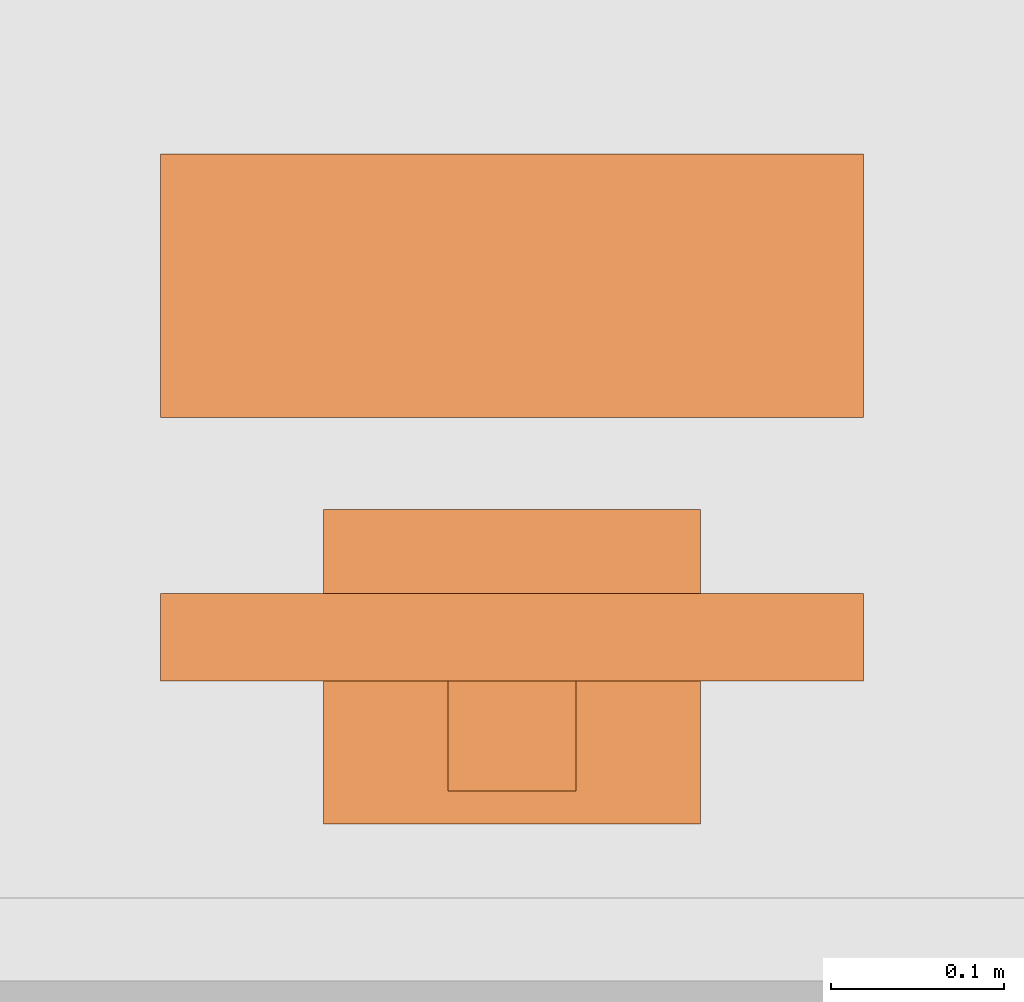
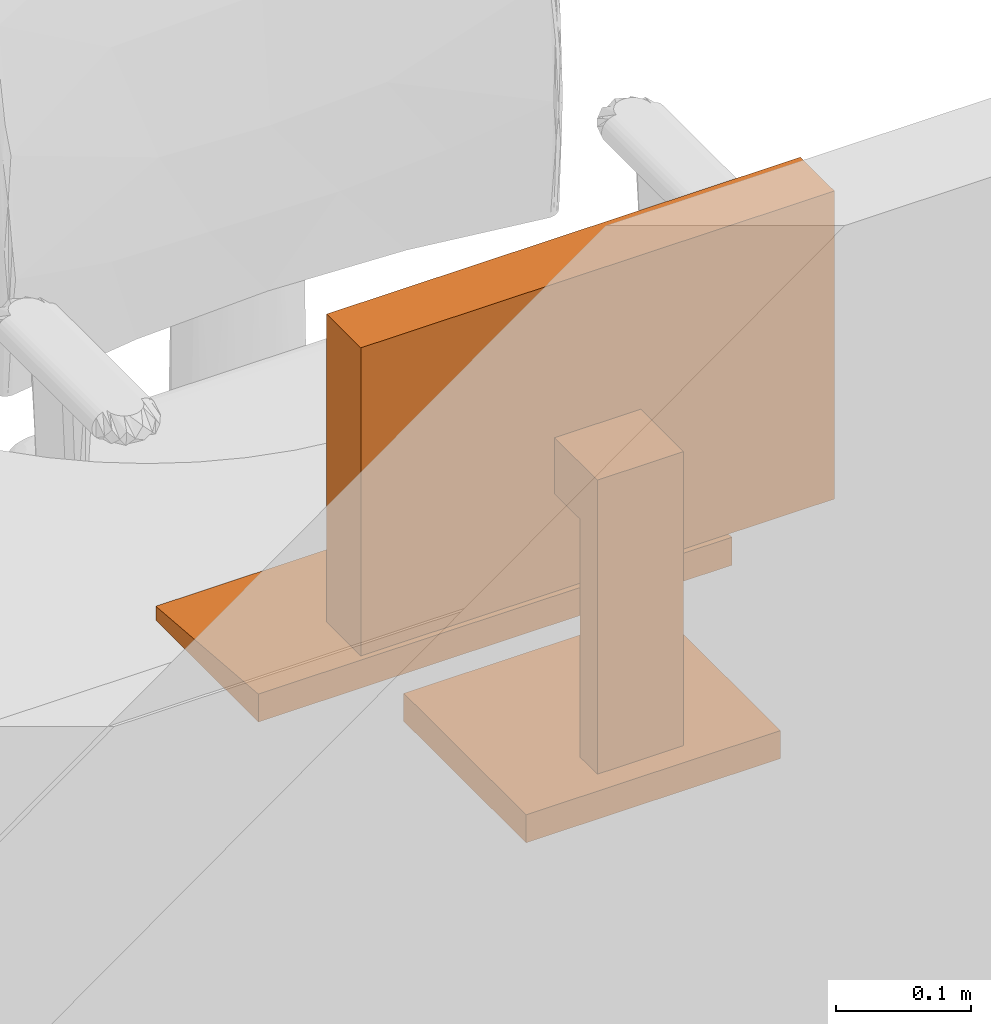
# One storey, part 87 of 142: 1 proxy.
"""IFC2X3 building model written with IfcOpenShell, lengths in feet."""

import ifcopenshell
import ifcopenshell.guid

model = None  # the IFC model being written
_history = None  # IfcOwnerHistory: only IFC2X3 demands one
_inside = {}  # id of a spatial element -> (the spatial element, [elements in it])
_under = {}  # id of a project, library or spatial element -> (it, [spatial elements below it])
_declared = {}  # id of a project -> (the project, [libraries it declares])
_typed = {}  # id of a type object -> (the type object, [elements of that type])
_made_of = {}  # id of a material, layer set ... -> (it, [elements and type objects made of it])


def new_model(schema):
    """Start an empty IFC model of exactly this schema.

    Asked for "IFC4X3", IfcOpenShell would pick the latest addendum, in which some entities
    have other attributes; the version numbers below select the first issue.
    IFC2X3 requires an IfcOwnerHistory on every rooted entity: one is made here for all.
    """
    global model, _history
    if schema == "IFC4X3":
        model = ifcopenshell.file(schema_version=(4, 3, 0, 0))
    else:
        model = ifcopenshell.file(schema=schema)
    _inside.clear()
    _under.clear()
    _declared.clear()
    _typed.clear()
    _made_of.clear()
    _history = None
    if model.schema == "IFC2X3":
        org = make("IfcOrganization", Name="unknown")
        user = make(
            "IfcPersonAndOrganization",
            ThePerson=make("IfcPerson", FamilyName="unknown"),
            TheOrganization=org,
        )
        app = make(
            "IfcApplication",
            ApplicationDeveloper=org,
            Version="unknown",
            ApplicationFullName="unknown",
            ApplicationIdentifier="unknown",
        )
        _history = make(
            "IfcOwnerHistory",
            OwningUser=user,
            OwningApplication=app,
            ChangeAction="ADDED",
            CreationDate=0,
        )
    return model


def make(cls, **values):
    """One entity of the class cls with the attributes given. An attribute that is None is left unset."""
    return model.create_entity(
        cls, **{name: value for name, value in values.items() if value is not None}
    )


def entity(cls, *values):
    """Any entity or typed value of the class cls, its attributes in the order of the schema. None: left unset."""
    e = model.create_entity(cls)
    for i, value in enumerate(values):
        if value is not None:
            e[i] = value
    return e


def rooted(cls, **values):
    """An entity with a GlobalId (a new one), such as an element, a storey or a relation."""
    return make(cls, GlobalId=ifcopenshell.guid.new(), OwnerHistory=_history, **values)


def si_unit(unit_type, name, prefix=None):
    """IfcSIUnit, for example si_unit("LENGTHUNIT", "METRE", prefix="MILLI")."""
    return make("IfcSIUnit", UnitType=unit_type, Prefix=prefix, Name=name)


def converted_unit(unit_type, name, factor, base, dimensions=None, offset=None):
    """IfcConversionBasedUnit, such as the inch: factor (a typed value) times the base unit."""
    return make(
        "IfcConversionBasedUnit"
        if offset is None
        else "IfcConversionBasedUnitWithOffset",
        ConversionOffset=offset,
        Dimensions=None
        if dimensions is None
        else entity("IfcDimensionalExponents", *dimensions),
        UnitType=unit_type,
        Name=name,
        ConversionFactor=make(
            "IfcMeasureWithUnit", ValueComponent=factor, UnitComponent=base
        ),
    )


def derived_unit(unit_type, elements):
    """IfcDerivedUnit: a product of units, each with its exponent."""
    return make(
        "IfcDerivedUnit",
        Elements=[
            make("IfcDerivedUnitElement", Unit=unit, Exponent=power)
            for unit, power in elements
        ],
        UnitType=unit_type,
    )


def assignment(units):
    """IfcUnitAssignment: the units of a project."""
    return None if units is None else make("IfcUnitAssignment", Units=units)


def point(xyz):
    """IfcCartesianPoint."""
    return None if xyz is None else make("IfcCartesianPoint", Coordinates=xyz)


def direction(xyz):
    """IfcDirection."""
    return None if xyz is None else make("IfcDirection", DirectionRatios=xyz)


def frame(location, z_axis=None, x_axis=None):
    """IfcAxis2Placement3D, a coordinate frame: its origin and axes. An axis left out is left unset."""
    return make(
        "IfcAxis2Placement3D",
        Location=point(location),
        Axis=direction(z_axis),
        RefDirection=direction(x_axis),
    )


def origin():
    """The frame at (0, 0, 0) with its axes left unset."""
    return frame((0.0, 0.0, 0.0))


def place(relative_to, where):
    """IfcLocalPlacement: puts the frame where relative to a parent placement (None: the world)."""
    return make(
        "IfcLocalPlacement", PlacementRelTo=relative_to, RelativePlacement=where
    )


def context(
    kind, dimensions, precision=None, world=None, true_north=None, identifier=None
):
    """IfcGeometricRepresentationContext, for example the 3D "Model" context."""
    return make(
        "IfcGeometricRepresentationContext",
        ContextIdentifier=identifier,
        ContextType=kind,
        CoordinateSpaceDimension=dimensions,
        Precision=precision,
        WorldCoordinateSystem=world,
        TrueNorth=true_north,
    )


def subcontext(parent, identifier, kind, view, scale=None):
    """IfcGeometricRepresentationSubContext, for example "Body" below "Model"."""
    return make(
        "IfcGeometricRepresentationSubContext",
        ContextIdentifier=identifier,
        ContextType=kind,
        ParentContext=parent,
        TargetScale=scale,
        TargetView=view,
    )


def project(units=None, contexts=None):
    """IfcProject with its units and contexts."""
    return rooted(
        "IfcProject",
        Name="project",
        RepresentationContexts=contexts,
        UnitsInContext=assignment(units),
    )


def spatial(cls, under=None, at=None, **own):
    """A site, building, storey or space (cls), placed at a placement, below another one or the project."""
    s = rooted(cls, ObjectPlacement=at, **own)
    if under is not None:
        _under.setdefault(under.id(), (under, []))[1].append(s)
    return s


def faces_of(points, faces, orient=None, outer=None):
    """IfcFace entities. A face is a list of loops; a loop is a list of indices into points, from 0.

    orient and outer hold one flag for each loop. By default every Orientation is true, the
    first loop of a face is its IfcFaceOuterBound and the others are IfcFaceBound.
    """
    made = []
    for i, loops in enumerate(faces):
        bounds = []
        for j, loop in enumerate(loops):
            is_outer = j == 0 if outer is None else outer[i][j]
            bounds.append(
                make(
                    "IfcFaceOuterBound" if is_outer else "IfcFaceBound",
                    Bound=make("IfcPolyLoop", Polygon=[points[k] for k in loop]),
                    Orientation=True if orient is None else orient[i][j],
                )
            )
        made.append(make("IfcFace", Bounds=bounds))
    return made


def faceted_brep(points, faces, orient=None, outer=None, voids=None):
    """IfcFacetedBrep: a solid bounded by flat faces; with voids (closed shells), ...WithVoids."""
    shared = [point(p) for p in points]
    hull = make("IfcClosedShell", CfsFaces=faces_of(shared, faces, orient, outer))
    if voids is None:
        return make("IfcFacetedBrep", Outer=hull)
    return make(
        "IfcFacetedBrepWithVoids",
        Outer=hull,
        Voids=[
            make(cls, CfsFaces=faces_of(shared, fs, o, b)) for cls, fs, o, b in voids
        ],
    )


def shape(context_of_items, identifier, shape_type, items):
    """IfcShapeRepresentation: the items that make up one representation, for example the "Body"."""
    return make(
        "IfcShapeRepresentation",
        ContextOfItems=context_of_items,
        RepresentationIdentifier=identifier,
        RepresentationType=shape_type,
        Items=items,
    )


def source(mapping_origin, context_of_items, identifier, shape_type, items):
    """IfcRepresentationMap: a shape defined once, which mapped items show again and again."""
    return make(
        "IfcRepresentationMap",
        MappingOrigin=mapping_origin,
        MappedRepresentation=shape(context_of_items, identifier, shape_type, items),
    )


def transform(
    local_origin,
    x_axis=None,
    y_axis=None,
    z_axis=None,
    scale=None,
    scale2=None,
    scale3=None,
    uniform=True,
):
    """IfcCartesianTransformationOperator3D, or its non-uniform kind. x_axis, y_axis, z_axis: its Axis1, 2, 3."""
    if uniform:
        return make(
            "IfcCartesianTransformationOperator3D",
            Axis1=direction(x_axis),
            Axis2=direction(y_axis),
            LocalOrigin=point(local_origin),
            Scale=scale,
            Axis3=direction(z_axis),
        )
    return make(
        "IfcCartesianTransformationOperator3DnonUniform",
        Axis1=direction(x_axis),
        Axis2=direction(y_axis),
        LocalOrigin=point(local_origin),
        Scale=scale,
        Axis3=direction(z_axis),
        Scale2=scale2,
        Scale3=scale3,
    )


def mapped(mapping_source, mapping_target):
    """IfcMappedItem: shows the shape of a source again, moved by a transform."""
    return make(
        "IfcMappedItem", MappingSource=mapping_source, MappingTarget=mapping_target
    )


def made_of(thing, what):
    """Note that an element or type object is made of a material, layer set ...; save() writes the relation."""
    if what is not None:
        _made_of.setdefault(what.id(), (what, []))[1].append(thing)
    return thing


def type_object(cls, material=None, **own):
    """A type object (cls), such as IfcWallType, which elements share."""
    return made_of(rooted(cls, **own), material)


def type_shapes(of_type, sources):
    """Give a type object the sources (RepresentationMaps) that its elements show as mapped items."""
    of_type.RepresentationMaps = sources


def element(
    cls,
    number,
    at=None,
    inside=None,
    cuts=None,
    type_object=None,
    material=None,
    context=None,
    identifier="Body",
    shape_type=None,
    held_by="IfcProductDefinitionShape",
    body=None,
    shapes=None,
    **own,
):
    """One element of the class cls, such as IfcWall. Its Tag is "e" and its number.

    at: its placement. inside: the storey or other place that contains it. cuts: it is an
    opening in that element (IfcRelVoidsElement). A single representation is given by context,
    identifier, shape_type and body (its items); several are given by shapes. held_by: the class
    of the entity that holds the representations. save() writes the other relations.
    """
    e = rooted(cls, Tag="e%d" % number, ObjectPlacement=at, **own)
    if body is not None:
        shapes = [shape(context, identifier, shape_type, body)]
    if shapes is not None:
        e.Representation = make(held_by, Representations=shapes)
    if inside is not None:
        _inside.setdefault(inside.id(), (inside, []))[1].append(e)
    if cuts is not None:
        rooted(
            "IfcRelVoidsElement", RelatingBuildingElement=cuts, RelatedOpeningElement=e
        )
    if type_object is not None:
        _typed.setdefault(type_object.id(), (type_object, []))[1].append(e)
    return made_of(e, material)


def aggregate(whole, parts):
    """IfcRelAggregates: a whole, such as a stair, and the parts it consists of."""
    return rooted("IfcRelAggregates", RelatingObject=whole, RelatedObjects=parts)


def save(model, path):
    """Write the relations noted so far, then the file.

    IfcRelAggregates (storeys below a building ...), IfcRelContainedInSpatialStructure (elements
    in a storey), IfcRelDefinesByType, IfcRelAssociatesMaterial and IfcRelDeclares: one each for
    every whole, place, type object, material and project.
    """
    for whole, parts in _under.values():
        aggregate(whole, parts)
    for where, things in _inside.values():
        rooted(
            "IfcRelContainedInSpatialStructure",
            RelatedElements=things,
            RelatingStructure=where,
        )
    for kind, things in _typed.values():
        rooted("IfcRelDefinesByType", RelatedObjects=things, RelatingType=kind)
    for what, things in _made_of.values():
        rooted("IfcRelAssociatesMaterial", RelatedObjects=things, RelatingMaterial=what)
    for by, libraries in _declared.values():
        rooted("IfcRelDeclares", RelatingContext=by, RelatedDefinitions=libraries)
    model.write(path)


model = new_model("IFC2X3")

# Units and contexts
model_context = context("Model", 3, precision=0.0001, world=origin(), true_north=direction((6.12303176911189e-17, 1.0)))
body_context = subcontext(model_context, "Body", "Model", "MODEL_VIEW")
ifc_project = project(units=[converted_unit("LENGTHUNIT", "FOOT", entity("IfcRatioMeasure", 0.3048), si_unit("LENGTHUNIT", "METRE"), dimensions=[1, 0, 0, 0, 0, 0, 0]), converted_unit("AREAUNIT", "SQUARE FOOT", entity("IfcRatioMeasure", 0.09290304), si_unit("AREAUNIT", "SQUARE_METRE"), dimensions=[2, 0, 0, 0, 0, 0, 0]), converted_unit("VOLUMEUNIT", "CUBIC FOOT", entity("IfcRatioMeasure", 0.028316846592), si_unit("VOLUMEUNIT", "CUBIC_METRE"), dimensions=[3, 0, 0, 0, 0, 0, 0]), converted_unit("PLANEANGLEUNIT", "DEGREE", entity("IfcRatioMeasure", 0.0174532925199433), si_unit("PLANEANGLEUNIT", "RADIAN"), dimensions=[0, 0, 0, 0, 0, 0, 0]), si_unit("MASSUNIT", "GRAM", prefix="KILO"), derived_unit("MASSDENSITYUNIT", [(si_unit("MASSUNIT", "GRAM", prefix="KILO"), 1), (si_unit("LENGTHUNIT", "METRE"), -3)]), si_unit("TIMEUNIT", "SECOND"), si_unit("FREQUENCYUNIT", "HERTZ"), si_unit("THERMODYNAMICTEMPERATUREUNIT", "DEGREE_CELSIUS"), derived_unit("THERMALTRANSMITTANCEUNIT", [(si_unit("MASSUNIT", "GRAM", prefix="KILO"), 1), (si_unit("THERMODYNAMICTEMPERATUREUNIT", "KELVIN"), -1), (si_unit("TIMEUNIT", "SECOND"), -3)]), derived_unit("VOLUMETRICFLOWRATEUNIT", [(si_unit("LENGTHUNIT", "METRE"), 3), (si_unit("TIMEUNIT", "SECOND"), -1)]), si_unit("ELECTRICCURRENTUNIT", "AMPERE"), si_unit("ELECTRICVOLTAGEUNIT", "VOLT"), si_unit("POWERUNIT", "WATT"), si_unit("FORCEUNIT", "NEWTON"), si_unit("ILLUMINANCEUNIT", "LUX"), si_unit("LUMINOUSFLUXUNIT", "LUMEN"), si_unit("LUMINOUSINTENSITYUNIT", "CANDELA"), derived_unit("USERDEFINED", [(si_unit("MASSUNIT", "GRAM", prefix="KILO"), -1), (si_unit("LENGTHUNIT", "METRE"), -2), (si_unit("TIMEUNIT", "SECOND"), 3), (si_unit("LUMINOUSFLUXUNIT", "LUMEN"), 1)]), derived_unit("LINEARVELOCITYUNIT", [(si_unit("LENGTHUNIT", "METRE"), 1), (si_unit("TIMEUNIT", "SECOND"), -1)]), si_unit("PRESSUREUNIT", "PASCAL"), derived_unit("USERDEFINED", [(si_unit("LENGTHUNIT", "METRE"), -2), (si_unit("MASSUNIT", "GRAM", prefix="KILO"), 1), (si_unit("TIMEUNIT", "SECOND"), -2)])], contexts=[model_context])

# Site, building, storey, space
site_placement = place(None, origin())
site = spatial("IfcSite", under=ifc_project, at=site_placement, Name="Default", CompositionType="ELEMENT")
building_placement = place(site_placement, origin())
building = spatial("IfcBuilding", under=site, at=building_placement, Name="OUTPATIENT / PACT CLINIC (Ch. 265)", CompositionType="ELEMENT")
storey_placement = place(building_placement, origin())
storey = spatial("IfcBuildingStorey", under=building, at=storey_placement, Name="LEVEL 1", CompositionType="ELEMENT", Elevation=0.0)
space_placement = place(storey_placement, origin())
space = spatial("IfcSpace", under=storey, at=space_placement, Name="WRTM1", CompositionType="ELEMENT", InteriorOrExteriorSpace="INTERNAL")

# Proxy
building_element_proxy_type = type_object("IfcBuildingElementProxyType", Name="M1801 - Computer with Flat Panel Monitor", PredefinedType="NOTDEFINED")
shared_shape = source(origin(), body_context, "Body", "Brep", [
    faceted_brep([(0.666666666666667, 0.5625, 0.0), (0.666666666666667, 0.5625, 0.0416666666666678), (0.666666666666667, 0.0624999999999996, 0.0833333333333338), (0.666666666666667, 0.0624999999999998, 0.0), (-0.666666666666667, 0.5625, 0.0), (-0.666666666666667, 0.0624999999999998, 0.0), (-0.666666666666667, 0.0624999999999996, 0.0833333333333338), (-0.666666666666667, 0.5625, 0.0416666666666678)], [[[0, 1, 2, 3]], [[4, 5, 6, 7]], [[3, 5, 4, 0]], [[2, 6, 5, 3]], [[1, 7, 6, 2]], [[0, 4, 7, 1]]]),
    faceted_brep([(0.666666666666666, -0.437223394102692, 1.41666666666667), (0.666666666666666, -0.271109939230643, 1.41666666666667), (-0.666666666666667, -0.271109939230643, 1.41666666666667), (-0.666666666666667, -0.437223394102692, 1.41666666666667), (0.666666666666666, -0.437223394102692, 0.500000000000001), (-0.666666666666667, -0.437223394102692, 0.500000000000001), (-0.666666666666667, -0.271109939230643, 0.500000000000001), (0.666666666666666, -0.271109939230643, 0.500000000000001), (-0.625, -0.271109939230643, 1.375), (-0.625, -0.271109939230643, 0.541666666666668), (0.625, -0.271109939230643, 0.541666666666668), (0.625, -0.271109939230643, 1.375), (0.625, -0.286812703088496, 1.375), (-0.625, -0.286812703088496, 1.375), (0.625, -0.286812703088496, 0.541666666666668), (-0.625, -0.286812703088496, 0.541666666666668)], [[[0, 1, 2, 3]], [[4, 5, 6, 7]], [[3, 5, 4, 0]], [[2, 6, 5, 3]], [[8, 9, 10, 11], [1, 7, 6, 2]], [[0, 4, 7, 1]], [[12, 13, 8, 11]], [[14, 10, 9, 15]], [[12, 14, 15, 13]], [[13, 15, 9, 8]], [[11, 10, 14, 12]]], outer=[[True], [True], [True], [True], [False, True], [True], [True], [True], [True], [True], [True]]),
    faceted_brep([(0.358011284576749, -0.111770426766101, 0.0833333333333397), (0.358011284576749, -0.708333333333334, 0.0833333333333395), (0.358011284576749, -0.708333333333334, 0.0), (0.358011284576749, -0.111770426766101, 0.0), (-0.358011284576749, -0.708333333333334, 0.0833333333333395), (-0.358011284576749, -0.111770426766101, 0.0833333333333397), (-0.358011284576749, -0.111770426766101, 0.0), (-0.358011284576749, -0.708333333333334, 0.0), (0.12128795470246, -0.645556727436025, 0.104166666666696), (-0.12128795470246, -0.645556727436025, 0.104166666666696), (-0.12128795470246, -0.645556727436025, 0.0833333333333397), (0.12128795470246, -0.645556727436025, 0.0833333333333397), (0.12128795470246, -0.645556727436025, 0.958333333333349), (-0.12128795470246, -0.645556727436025, 0.958333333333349), (0.12128795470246, -0.437223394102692, 0.958333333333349), (-0.12128795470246, -0.437223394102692, 0.958333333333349), (0.12128795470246, -0.437223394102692, 0.791666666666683), (-0.12128795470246, -0.437223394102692, 0.791666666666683), (0.12128795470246, -0.562223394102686, 0.791666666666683), (-0.12128795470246, -0.562223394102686, 0.791666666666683), (0.12128795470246, -0.562223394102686, 0.0833333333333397), (-0.12128795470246, -0.562223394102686, 0.0833333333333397)], [[[0, 1, 2, 3]], [[4, 5, 6, 7]], [[8, 9, 10, 11]], [[12, 13, 9, 8]], [[14, 15, 13, 12]], [[16, 17, 15, 14]], [[18, 19, 17, 16]], [[20, 21, 19, 18]], [[11, 10, 21, 20], [0, 5, 4, 1]], [[3, 6, 5, 0]], [[2, 7, 6, 3]], [[1, 4, 7, 2]], [[20, 18, 16, 14, 12, 8, 11]], [[10, 9, 13, 15, 17, 19, 21]]], outer=[[True], [True], [True], [True], [True], [True], [True], [True], [False, True], [True], [True], [True], [True], [True]]),
])
type_shapes(building_element_proxy_type, [shared_shape])
proxy_placement = place(space_placement, frame((421.794814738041, -934.622044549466, 2.49999999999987)))
element("IfcBuildingElementProxy", 1, at=proxy_placement, inside=space, type_object=building_element_proxy_type, Name="M1801 - Computer with Flat Panel Monitor:M1801 - Computer with Flat Panel Monitor", ObjectType="M1801 - Computer with Flat Panel Monitor", context=body_context, shape_type="MappedRepresentation", body=[
    mapped(shared_shape, transform((0.0, 0.0, 0.0), scale=1.0)),
])

save(model, "model.ifc")
